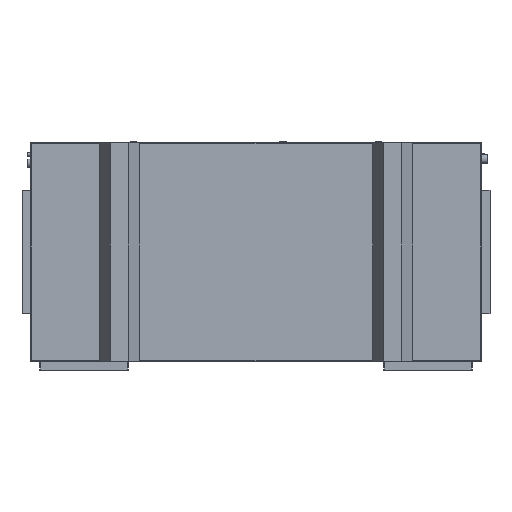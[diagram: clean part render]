
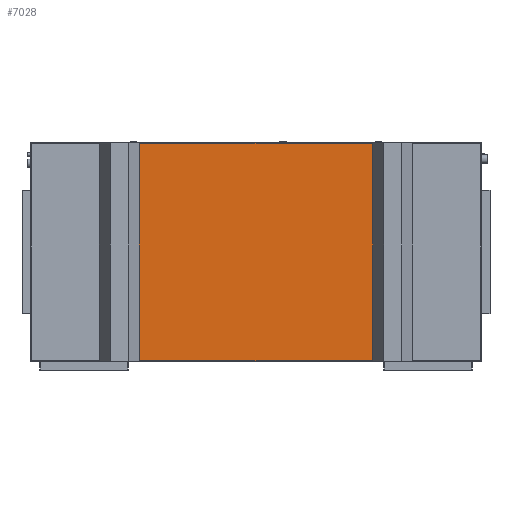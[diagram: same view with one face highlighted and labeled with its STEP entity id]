
A CAD part, front view. The second image highlights one B-rep face of the part: STEP entity #7028.
In plain terms, the highlighted planar face has unit normal (0, -1, 0).
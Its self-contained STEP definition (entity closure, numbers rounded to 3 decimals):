
#137 = EDGE_CURVE ( 'NONE', #5836, #215, #7491, .T. ) ;
#177 = EDGE_CURVE ( 'NONE', #7903, #5836, #4519, .T. ) ;
#215 = VERTEX_POINT ( 'NONE', #7048 ) ;
#353 = ORIENTED_EDGE ( 'NONE', *, *, #3411, .T. ) ;
#462 = VECTOR ( 'NONE', #7526, 1000. ) ;
#954 = DIRECTION ( 'NONE',  ( 0., 1., 0. ) ) ;
#1455 = CARTESIAN_POINT ( 'NONE',  ( -658.991, -700., 1487.263 ) ) ;
#1691 = VERTEX_POINT ( 'NONE', #3889 ) ;
#1846 = VECTOR ( 'NONE', #4579, 1000. ) ;
#2042 = FACE_OUTER_BOUND ( 'NONE', #3645, .T. ) ;
#2086 = LINE ( 'NONE', #2772, #1846 ) ;
#2102 = CARTESIAN_POINT ( 'NONE',  ( -1272.5, -700., 1235. ) ) ;
#2658 = LINE ( 'NONE', #1455, #462 ) ;
#2772 = CARTESIAN_POINT ( 'NONE',  ( -1272.5, -700., 0. ) ) ;
#2929 = ORIENTED_EDGE ( 'NONE', *, *, #177, .F. ) ;
#3411 = EDGE_CURVE ( 'NONE', #7903, #1691, #2658, .T. ) ;
#3418 = DIRECTION ( 'NONE',  ( 0., 0., 1. ) ) ;
#3645 = EDGE_LOOP ( 'NONE', ( #2929, #353, #4502, #4564 ) ) ;
#3766 = EDGE_CURVE ( 'NONE', #1691, #215, #2086, .T. ) ;
#3834 = DIRECTION ( 'NONE',  ( 1., 0., 0. ) ) ;
#3889 = CARTESIAN_POINT ( 'NONE',  ( -658.991, -700., 0. ) ) ;
#3910 = CARTESIAN_POINT ( 'NONE',  ( 658.991, -700., 1235. ) ) ;
#4502 = ORIENTED_EDGE ( 'NONE', *, *, #3766, .T. ) ;
#4519 = LINE ( 'NONE', #2102, #6994 ) ;
#4564 = ORIENTED_EDGE ( 'NONE', *, *, #137, .F. ) ;
#4579 = DIRECTION ( 'NONE',  ( 1., 0., 0. ) ) ;
#4623 = PLANE ( 'NONE',  #7831 ) ;
#5836 = VERTEX_POINT ( 'NONE', #3910 ) ;
#6354 = VECTOR ( 'NONE', #7362, 1000. ) ;
#6470 = CARTESIAN_POINT ( 'NONE',  ( -1272.5, -700., 1235. ) ) ;
#6600 = CARTESIAN_POINT ( 'NONE',  ( -658.991, -700., 1235. ) ) ;
#6994 = VECTOR ( 'NONE', #3834, 1000. ) ;
#7028 = ADVANCED_FACE ( 'NONE', ( #2042 ), #4623, .F. ) ;
#7048 = CARTESIAN_POINT ( 'NONE',  ( 658.991, -700., 0. ) ) ;
#7362 = DIRECTION ( 'NONE',  ( 0., 0., -1. ) ) ;
#7402 = CARTESIAN_POINT ( 'NONE',  ( 658.991, -700., 1487.263 ) ) ;
#7491 = LINE ( 'NONE', #7402, #6354 ) ;
#7526 = DIRECTION ( 'NONE',  ( 0., 0., -1. ) ) ;
#7831 = AXIS2_PLACEMENT_3D ( 'NONE', #6470, #954, #3418 ) ;
#7903 = VERTEX_POINT ( 'NONE', #6600 ) ;
